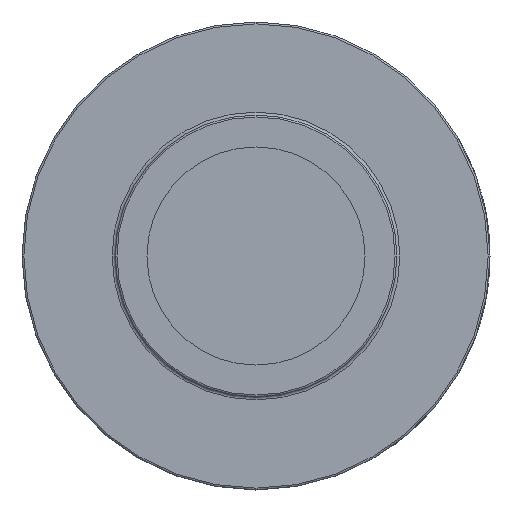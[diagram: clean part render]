
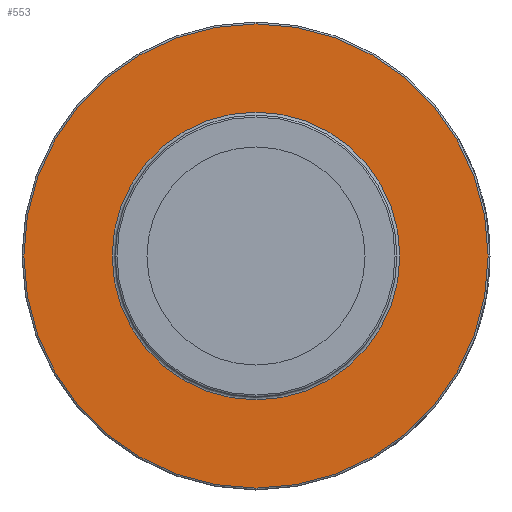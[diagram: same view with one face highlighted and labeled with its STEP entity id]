
A CAD part, left-side view. The second image highlights one B-rep face of the part: STEP entity #553.
In plain terms, the highlighted planar face has unit normal (-1, 0, 0).
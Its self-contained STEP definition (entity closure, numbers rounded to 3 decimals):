
#553 = ADVANCED_FACE( '', ( #1197, #1198 ), #1199, .T. );
#1197 = FACE_OUTER_BOUND( '', #2509, .T. );
#1198 = FACE_BOUND( '', #2510, .T. );
#1199 = PLANE( '', #2511 );
#2509 = EDGE_LOOP( '', ( #4726 ) );
#2510 = EDGE_LOOP( '', ( #4727 ) );
#2511 = AXIS2_PLACEMENT_3D( '', #4728, #4729, #4730 );
#4726 = ORIENTED_EDGE( '', *, *, #5238, .T. );
#4727 = ORIENTED_EDGE( '', *, *, #5406, .F. );
#4728 = CARTESIAN_POINT( '', ( 35.976, 0., 39.033 ) );
#4729 = DIRECTION( '', ( -1., 0., 0. ) );
#4730 = DIRECTION( '', ( 0., 0., 1. ) );
#5238 = EDGE_CURVE( '', #6045, #6045, #6046, .T. );
#5406 = EDGE_CURVE( '', #6331, #6331, #6332, .T. );
#6045 = VERTEX_POINT( '', #7249 );
#6046 = CIRCLE( '', #7250, 62.992 );
#6331 = VERTEX_POINT( '', #7882 );
#6332 = CIRCLE( '', #7883, 39.033 );
#7249 = CARTESIAN_POINT( '', ( 35.976, 0., 62.992 ) );
#7250 = AXIS2_PLACEMENT_3D( '', #9791, #9792, #9793 );
#7882 = CARTESIAN_POINT( '', ( 35.976, 0., 39.033 ) );
#7883 = AXIS2_PLACEMENT_3D( '', #9806, #9807, #9808 );
#9791 = CARTESIAN_POINT( '', ( 35.976, 0., 0. ) );
#9792 = DIRECTION( '', ( -1., 0., 0. ) );
#9793 = DIRECTION( '', ( 0., 0., 1. ) );
#9806 = CARTESIAN_POINT( '', ( 35.976, 0., 0. ) );
#9807 = DIRECTION( '', ( -1., 0., 0. ) );
#9808 = DIRECTION( '', ( 0., 0., 1. ) );
